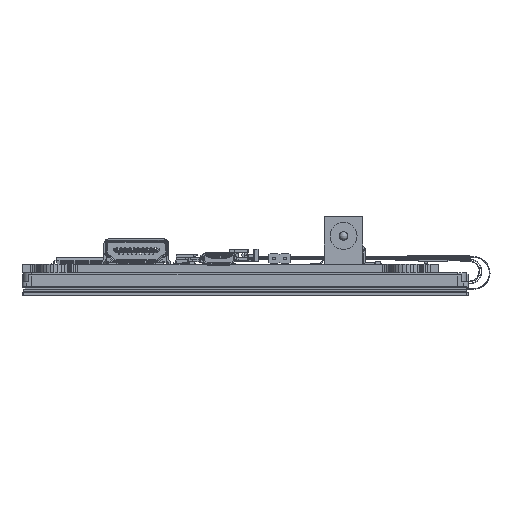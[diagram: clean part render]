
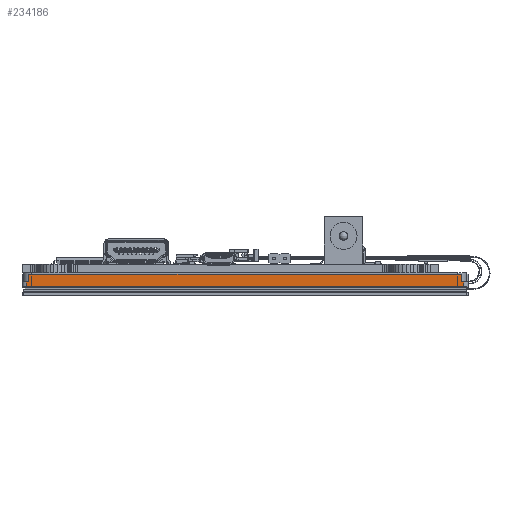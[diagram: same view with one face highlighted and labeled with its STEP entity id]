
A CAD part, left-side view. The second image highlights one B-rep face of the part: STEP entity #234186.
In plain terms, the highlighted planar face has unit normal (-1, 0, 0).
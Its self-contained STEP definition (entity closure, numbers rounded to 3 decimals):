
#2523 = LINE ( 'NONE', #46041, #190859 ) ;
#3171 = VERTEX_POINT ( 'NONE', #187106 ) ;
#7962 = ORIENTED_EDGE ( 'NONE', *, *, #32359, .T. ) ;
#9538 = DIRECTION ( 'NONE',  ( 0., -1., 0. ) ) ;
#10533 = CIRCLE ( 'NONE', #150935, 0.3 ) ;
#12969 = CARTESIAN_POINT ( 'NONE',  ( -21.195, 43.174, 128.862 ) ) ;
#14941 = EDGE_CURVE ( 'NONE', #86146, #69162, #88665, .T. ) ;
#15166 = VECTOR ( 'NONE', #239543, 1000. ) ;
#20042 = DIRECTION ( 'NONE',  ( -1., 0., 0. ) ) ;
#21375 = VECTOR ( 'NONE', #41567, 1000. ) ;
#21505 = LINE ( 'NONE', #236247, #21375 ) ;
#25013 = CARTESIAN_POINT ( 'NONE',  ( -21.195, 94.174, 128.862 ) ) ;
#27186 = DIRECTION ( 'NONE',  ( 0., 1., 0. ) ) ;
#30930 = VECTOR ( 'NONE', #154876, 1000. ) ;
#32036 = CARTESIAN_POINT ( 'NONE',  ( -21.195, 145.174, 128.862 ) ) ;
#32359 = EDGE_CURVE ( 'NONE', #159410, #76295, #63668, .T. ) ;
#38844 = PLANE ( 'NONE',  #203119 ) ;
#41567 = DIRECTION ( 'NONE',  ( 0., 1., 0. ) ) ;
#42783 = ORIENTED_EDGE ( 'NONE', *, *, #104700, .T. ) ;
#46041 = CARTESIAN_POINT ( 'NONE',  ( -21.195, 43.174, 132.062 ) ) ;
#46301 = LINE ( 'NONE', #25013, #91431 ) ;
#50911 = CARTESIAN_POINT ( 'NONE',  ( -21.195, 42.174, 130.232 ) ) ;
#53668 = ORIENTED_EDGE ( 'NONE', *, *, #79794, .T. ) ;
#57581 = VERTEX_POINT ( 'NONE', #131105 ) ;
#61050 = VERTEX_POINT ( 'NONE', #127515 ) ;
#63436 = CARTESIAN_POINT ( 'NONE',  ( -21.195, 144.674, 132.062 ) ) ;
#63668 = LINE ( 'NONE', #233369, #172103 ) ;
#66671 = VECTOR ( 'NONE', #9538, 1000. ) ;
#69162 = VERTEX_POINT ( 'NONE', #91496 ) ;
#72604 = CARTESIAN_POINT ( 'NONE',  ( -21.195, 43.674, 131.762 ) ) ;
#76295 = VERTEX_POINT ( 'NONE', #72604 ) ;
#79276 = CARTESIAN_POINT ( 'NONE',  ( -21.195, 144.974, 130.532 ) ) ;
#79794 = EDGE_CURVE ( 'NONE', #173162, #94627, #154168, .T. ) ;
#80121 = CARTESIAN_POINT ( 'NONE',  ( -21.195, 144.674, 130.532 ) ) ;
#81039 = ORIENTED_EDGE ( 'NONE', *, *, #224325, .T. ) ;
#81949 = CARTESIAN_POINT ( 'NONE',  ( -21.195, 145.174, 132.062 ) ) ;
#86146 = VERTEX_POINT ( 'NONE', #117795 ) ;
#88665 = LINE ( 'NONE', #50911, #66671 ) ;
#91431 = VECTOR ( 'NONE', #105372, 1000. ) ;
#91496 = CARTESIAN_POINT ( 'NONE',  ( -21.195, 43.174, 130.232 ) ) ;
#94627 = VERTEX_POINT ( 'NONE', #244459 ) ;
#95448 = FACE_OUTER_BOUND ( 'NONE', #200676, .T. ) ;
#97114 = LINE ( 'NONE', #81949, #30930 ) ;
#97207 = DIRECTION ( 'NONE',  ( 0., -1., 0. ) ) ;
#103651 = CARTESIAN_POINT ( 'NONE',  ( -21.195, 43.674, 130.532 ) ) ;
#104133 = AXIS2_PLACEMENT_3D ( 'NONE', #146501, #199320, #27186 ) ;
#104700 = EDGE_CURVE ( 'NONE', #94627, #57581, #21505, .T. ) ;
#105372 = DIRECTION ( 'NONE',  ( 0., 1., 0. ) ) ;
#106472 = ORIENTED_EDGE ( 'NONE', *, *, #118964, .T. ) ;
#117795 = CARTESIAN_POINT ( 'NONE',  ( -21.195, 43.374, 130.232 ) ) ;
#118964 = EDGE_CURVE ( 'NONE', #61050, #3171, #2523, .T. ) ;
#123634 = EDGE_CURVE ( 'NONE', #232967, #173162, #157728, .T. ) ;
#126343 = ORIENTED_EDGE ( 'NONE', *, *, #123634, .T. ) ;
#127515 = CARTESIAN_POINT ( 'NONE',  ( -21.195, 43.974, 132.062 ) ) ;
#129091 = VERTEX_POINT ( 'NONE', #32036 ) ;
#131105 = CARTESIAN_POINT ( 'NONE',  ( -21.195, 145.174, 130.232 ) ) ;
#132191 = DIRECTION ( 'NONE',  ( -1., 0., 0. ) ) ;
#139132 = LINE ( 'NONE', #160457, #15166 ) ;
#142364 = EDGE_CURVE ( 'NONE', #170490, #129091, #46301, .T. ) ;
#144194 = EDGE_CURVE ( 'NONE', #86146, #159410, #160468, .T. ) ;
#146501 = CARTESIAN_POINT ( 'NONE',  ( -21.195, 43.374, 130.532 ) ) ;
#148539 = CARTESIAN_POINT ( 'NONE',  ( -21.195, 144.374, 131.762 ) ) ;
#150935 = AXIS2_PLACEMENT_3D ( 'NONE', #234060, #156216, #97207 ) ;
#151930 = CARTESIAN_POINT ( 'NONE',  ( -21.195, 144.674, 131.762 ) ) ;
#151991 = ORIENTED_EDGE ( 'NONE', *, *, #144194, .T. ) ;
#153557 = EDGE_CURVE ( 'NONE', #129091, #57581, #97114, .T. ) ;
#154168 = CIRCLE ( 'NONE', #218328, 0.3 ) ;
#154428 = EDGE_CURVE ( 'NONE', #170490, #69162, #139132, .T. ) ;
#154876 = DIRECTION ( 'NONE',  ( 0., 0., 1. ) ) ;
#156216 = DIRECTION ( 'NONE',  ( -1., 0., 0. ) ) ;
#157728 = LINE ( 'NONE', #63436, #213977 ) ;
#159410 = VERTEX_POINT ( 'NONE', #103651 ) ;
#160457 = CARTESIAN_POINT ( 'NONE',  ( -21.195, 43.174, 132.062 ) ) ;
#160468 = CIRCLE ( 'NONE', #104133, 0.3 ) ;
#170490 = VERTEX_POINT ( 'NONE', #12969 ) ;
#172103 = VECTOR ( 'NONE', #195651, 1000. ) ;
#173162 = VERTEX_POINT ( 'NONE', #80121 ) ;
#173535 = DIRECTION ( 'NONE',  ( 0., -1., 0. ) ) ;
#178055 = ORIENTED_EDGE ( 'NONE', *, *, #14941, .F. ) ;
#181406 = ORIENTED_EDGE ( 'NONE', *, *, #153557, .F. ) ;
#182089 = ORIENTED_EDGE ( 'NONE', *, *, #154428, .T. ) ;
#187106 = CARTESIAN_POINT ( 'NONE',  ( -21.195, 144.374, 132.062 ) ) ;
#190859 = VECTOR ( 'NONE', #198109, 1000. ) ;
#195651 = DIRECTION ( 'NONE',  ( 0., 0., 1. ) ) ;
#197224 = AXIS2_PLACEMENT_3D ( 'NONE', #148539, #132191, #207561 ) ;
#198109 = DIRECTION ( 'NONE',  ( 0., 1., 0. ) ) ;
#199320 = DIRECTION ( 'NONE',  ( 1., 0., 0. ) ) ;
#200676 = EDGE_LOOP ( 'NONE', ( #7962, #245497, #106472, #81039, #126343, #53668, #42783, #181406, #201408, #182089, #178055, #151991 ) ) ;
#201408 = ORIENTED_EDGE ( 'NONE', *, *, #142364, .F. ) ;
#203119 = AXIS2_PLACEMENT_3D ( 'NONE', #248661, #20042, #231084 ) ;
#207561 = DIRECTION ( 'NONE',  ( 0., 1., 0. ) ) ;
#213977 = VECTOR ( 'NONE', #234353, 1000. ) ;
#216761 = EDGE_CURVE ( 'NONE', #76295, #61050, #10533, .T. ) ;
#218328 = AXIS2_PLACEMENT_3D ( 'NONE', #79276, #230040, #173535 ) ;
#224325 = EDGE_CURVE ( 'NONE', #3171, #232967, #237216, .T. ) ;
#230040 = DIRECTION ( 'NONE',  ( 1., 0., 0. ) ) ;
#231084 = DIRECTION ( 'NONE',  ( 0., 1., 0. ) ) ;
#232967 = VERTEX_POINT ( 'NONE', #151930 ) ;
#233369 = CARTESIAN_POINT ( 'NONE',  ( -21.195, 43.674, 132.062 ) ) ;
#234060 = CARTESIAN_POINT ( 'NONE',  ( -21.195, 43.974, 131.762 ) ) ;
#234186 = ADVANCED_FACE ( 'NONE', ( #95448 ), #38844, .T. ) ;
#234353 = DIRECTION ( 'NONE',  ( 0., 0., -1. ) ) ;
#236247 = CARTESIAN_POINT ( 'NONE',  ( -21.195, 43.174, 130.232 ) ) ;
#237216 = CIRCLE ( 'NONE', #197224, 0.3 ) ;
#239543 = DIRECTION ( 'NONE',  ( 0., 0., 1. ) ) ;
#244459 = CARTESIAN_POINT ( 'NONE',  ( -21.195, 144.974, 130.232 ) ) ;
#245497 = ORIENTED_EDGE ( 'NONE', *, *, #216761, .T. ) ;
#248661 = CARTESIAN_POINT ( 'NONE',  ( -21.195, 43.174, 132.062 ) ) ;
